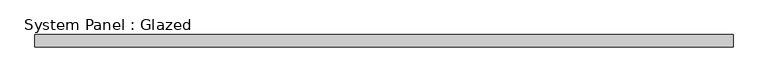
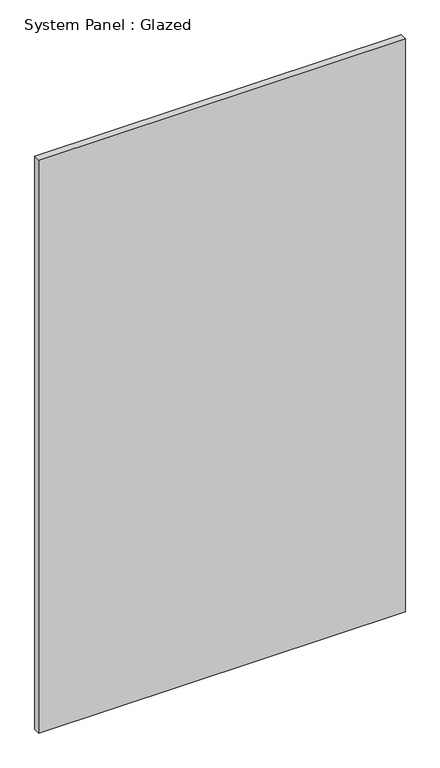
"""IFC4 building model written with IfcOpenShell, lengths in millimetres: plate geometry, System Panel : Glazed."""

import ifcopenshell
import ifcopenshell.guid

model = None  # the IFC model being written
_history = None  # IfcOwnerHistory: only IFC2X3 demands one
_inside = {}  # id of a spatial element -> (the spatial element, [elements in it])
_under = {}  # id of a project, library or spatial element -> (it, [spatial elements below it])
_declared = {}  # id of a project -> (the project, [libraries it declares])
_typed = {}  # id of a type object -> (the type object, [elements of that type])
_made_of = {}  # id of a material, layer set ... -> (it, [elements and type objects made of it])


def new_model(schema):
    """Start an empty IFC model of exactly this schema.

    Asked for "IFC4X3", IfcOpenShell would pick the latest addendum, in which some entities
    have other attributes; the version numbers below select the first issue.
    IFC2X3 requires an IfcOwnerHistory on every rooted entity: one is made here for all.
    """
    global model, _history
    if schema == "IFC4X3":
        model = ifcopenshell.file(schema_version=(4, 3, 0, 0))
    else:
        model = ifcopenshell.file(schema=schema)
    _inside.clear()
    _under.clear()
    _declared.clear()
    _typed.clear()
    _made_of.clear()
    _history = None
    if model.schema == "IFC2X3":
        org = make("IfcOrganization", Name="unknown")
        user = make(
            "IfcPersonAndOrganization",
            ThePerson=make("IfcPerson", FamilyName="unknown"),
            TheOrganization=org,
        )
        app = make(
            "IfcApplication",
            ApplicationDeveloper=org,
            Version="unknown",
            ApplicationFullName="unknown",
            ApplicationIdentifier="unknown",
        )
        _history = make(
            "IfcOwnerHistory",
            OwningUser=user,
            OwningApplication=app,
            ChangeAction="ADDED",
            CreationDate=0,
        )
    return model


def make(cls, **values):
    """One entity of the class cls with the attributes given. An attribute that is None is left unset."""
    return model.create_entity(
        cls, **{name: value for name, value in values.items() if value is not None}
    )


def rooted(cls, **values):
    """An entity with a GlobalId (a new one), such as an element, a storey or a relation."""
    return make(cls, GlobalId=ifcopenshell.guid.new(), OwnerHistory=_history, **values)


def si_unit(unit_type, name, prefix=None):
    """IfcSIUnit, for example si_unit("LENGTHUNIT", "METRE", prefix="MILLI")."""
    return make("IfcSIUnit", UnitType=unit_type, Prefix=prefix, Name=name)


def assignment(units):
    """IfcUnitAssignment: the units of a project."""
    return None if units is None else make("IfcUnitAssignment", Units=units)


def point(xyz):
    """IfcCartesianPoint."""
    return None if xyz is None else make("IfcCartesianPoint", Coordinates=xyz)


def direction(xyz):
    """IfcDirection."""
    return None if xyz is None else make("IfcDirection", DirectionRatios=xyz)


def frame(location, z_axis=None, x_axis=None):
    """IfcAxis2Placement3D, a coordinate frame: its origin and axes. An axis left out is left unset."""
    return make(
        "IfcAxis2Placement3D",
        Location=point(location),
        Axis=direction(z_axis),
        RefDirection=direction(x_axis),
    )


def origin():
    """The frame at (0, 0, 0) with its axes left unset."""
    return frame((0.0, 0.0, 0.0))


def origin_with_axes():
    """The frame at (0, 0, 0) with the z axis (0, 0, 1) and the x axis (1, 0, 0) written out."""
    return frame((0.0, 0.0, 0.0), z_axis=(0.0, 0.0, 1.0), x_axis=(1.0, 0.0, 0.0))


def place(relative_to, where):
    """IfcLocalPlacement: puts the frame where relative to a parent placement (None: the world)."""
    return make(
        "IfcLocalPlacement", PlacementRelTo=relative_to, RelativePlacement=where
    )


def context(
    kind, dimensions, precision=None, world=None, true_north=None, identifier=None
):
    """IfcGeometricRepresentationContext, for example the 3D "Model" context."""
    return make(
        "IfcGeometricRepresentationContext",
        ContextIdentifier=identifier,
        ContextType=kind,
        CoordinateSpaceDimension=dimensions,
        Precision=precision,
        WorldCoordinateSystem=world,
        TrueNorth=true_north,
    )


def project(units=None, contexts=None):
    """IfcProject with its units and contexts."""
    return rooted(
        "IfcProject",
        Name="project",
        RepresentationContexts=contexts,
        UnitsInContext=assignment(units),
    )


def spatial(cls, under=None, at=None, **own):
    """A site, building, storey or space (cls), placed at a placement, below another one or the project."""
    s = rooted(cls, ObjectPlacement=at, **own)
    if under is not None:
        _under.setdefault(under.id(), (under, []))[1].append(s)
    return s


def polyline(points):
    """IfcPolyline through the points."""
    return make("IfcPolyline", Points=[point(p) for p in points])


def outline(outer, holes=None, kind="AREA"):
    """IfcArbitraryClosedProfileDef: a profile drawn as a closed curve; with holes, ...WithVoids."""
    if holes is None:
        return make("IfcArbitraryClosedProfileDef", ProfileType=kind, OuterCurve=outer)
    return make(
        "IfcArbitraryProfileDefWithVoids",
        ProfileType=kind,
        OuterCurve=outer,
        InnerCurves=holes,
    )


def extrude(swept, where, along, depth):
    """IfcExtrudedAreaSolid: the profile swept, set in the frame where, extruded along a direction by depth."""
    return make(
        "IfcExtrudedAreaSolid",
        SweptArea=swept,
        Position=where,
        ExtrudedDirection=direction(along),
        Depth=depth,
    )


def shape(context_of_items, identifier, shape_type, items):
    """IfcShapeRepresentation: the items that make up one representation, for example the "Body"."""
    return make(
        "IfcShapeRepresentation",
        ContextOfItems=context_of_items,
        RepresentationIdentifier=identifier,
        RepresentationType=shape_type,
        Items=items,
    )


def source(mapping_origin, context_of_items, identifier, shape_type, items):
    """IfcRepresentationMap: a shape defined once, which mapped items show again and again."""
    return make(
        "IfcRepresentationMap",
        MappingOrigin=mapping_origin,
        MappedRepresentation=shape(context_of_items, identifier, shape_type, items),
    )


def transform(
    local_origin,
    x_axis=None,
    y_axis=None,
    z_axis=None,
    scale=None,
    scale2=None,
    scale3=None,
    uniform=True,
):
    """IfcCartesianTransformationOperator3D, or its non-uniform kind. x_axis, y_axis, z_axis: its Axis1, 2, 3."""
    if uniform:
        return make(
            "IfcCartesianTransformationOperator3D",
            Axis1=direction(x_axis),
            Axis2=direction(y_axis),
            LocalOrigin=point(local_origin),
            Scale=scale,
            Axis3=direction(z_axis),
        )
    return make(
        "IfcCartesianTransformationOperator3DnonUniform",
        Axis1=direction(x_axis),
        Axis2=direction(y_axis),
        LocalOrigin=point(local_origin),
        Scale=scale,
        Axis3=direction(z_axis),
        Scale2=scale2,
        Scale3=scale3,
    )


def mapped(mapping_source, mapping_target):
    """IfcMappedItem: shows the shape of a source again, moved by a transform."""
    return make(
        "IfcMappedItem", MappingSource=mapping_source, MappingTarget=mapping_target
    )


def made_of(thing, what):
    """Note that an element or type object is made of a material, layer set ...; save() writes the relation."""
    if what is not None:
        _made_of.setdefault(what.id(), (what, []))[1].append(thing)
    return thing


def element(
    cls,
    number,
    at=None,
    inside=None,
    cuts=None,
    type_object=None,
    material=None,
    context=None,
    identifier="Body",
    shape_type=None,
    held_by="IfcProductDefinitionShape",
    body=None,
    shapes=None,
    **own,
):
    """One element of the class cls, such as IfcWall. Its Tag is "e" and its number.

    at: its placement. inside: the storey or other place that contains it. cuts: it is an
    opening in that element (IfcRelVoidsElement). A single representation is given by context,
    identifier, shape_type and body (its items); several are given by shapes. held_by: the class
    of the entity that holds the representations. save() writes the other relations.
    """
    e = rooted(cls, Tag="e%d" % number, ObjectPlacement=at, **own)
    if body is not None:
        shapes = [shape(context, identifier, shape_type, body)]
    if shapes is not None:
        e.Representation = make(held_by, Representations=shapes)
    if inside is not None:
        _inside.setdefault(inside.id(), (inside, []))[1].append(e)
    if cuts is not None:
        rooted(
            "IfcRelVoidsElement", RelatingBuildingElement=cuts, RelatedOpeningElement=e
        )
    if type_object is not None:
        _typed.setdefault(type_object.id(), (type_object, []))[1].append(e)
    return made_of(e, material)


def aggregate(whole, parts):
    """IfcRelAggregates: a whole, such as a stair, and the parts it consists of."""
    return rooted("IfcRelAggregates", RelatingObject=whole, RelatedObjects=parts)


def save(model, path):
    """Write the relations noted so far, then the file.

    IfcRelAggregates (storeys below a building ...), IfcRelContainedInSpatialStructure (elements
    in a storey), IfcRelDefinesByType, IfcRelAssociatesMaterial and IfcRelDeclares: one each for
    every whole, place, type object, material and project.
    """
    for whole, parts in _under.values():
        aggregate(whole, parts)
    for where, things in _inside.values():
        rooted(
            "IfcRelContainedInSpatialStructure",
            RelatedElements=things,
            RelatingStructure=where,
        )
    for kind, things in _typed.values():
        rooted("IfcRelDefinesByType", RelatedObjects=things, RelatingType=kind)
    for what, things in _made_of.values():
        rooted("IfcRelAssociatesMaterial", RelatedObjects=things, RelatingMaterial=what)
    for by, libraries in _declared.values():
        rooted("IfcRelDeclares", RelatingContext=by, RelatedDefinitions=libraries)
    model.write(path)


def system_panel_glazed_d6c32529(model_context):
    return source(origin(), model_context, "Body", "SweptSolid", [
        extrude(outline(polyline([(704.0833333, -49.5), (-704.0833333, -49.5), (-704.0833333, -24.5), (704.0833333, -24.5), (704.0833333, -49.5)])), origin_with_axes(), (0.0, 0.0, 1.0), 2325.0),
    ])


if __name__ == "__main__":
    model = new_model("IFC4")
    model_context = context("Model", 3, world=origin())
    ifc_project = project(units=[si_unit("LENGTHUNIT", "METRE", prefix="MILLI")], contexts=[model_context])
    site = spatial("IfcSite", under=ifc_project)
    building = spatial("IfcBuilding", under=site)
    placement = place(None, origin())
    system_panel_glazed_shape = system_panel_glazed_d6c32529(model_context)
    element("IfcPlate", 1, ObjectType="System Panel : Glazed", at=placement, inside=building, context=model_context, shape_type="MappedRepresentation", body=[
        mapped(system_panel_glazed_shape, transform((0.0, 0.0, 0.0), x_axis=(1.0, 0.0, 0.0), y_axis=(0.0, 1.0, 0.0), z_axis=(0.0, 0.0, 1.0))),
    ])
    save(model, "model.ifc")
